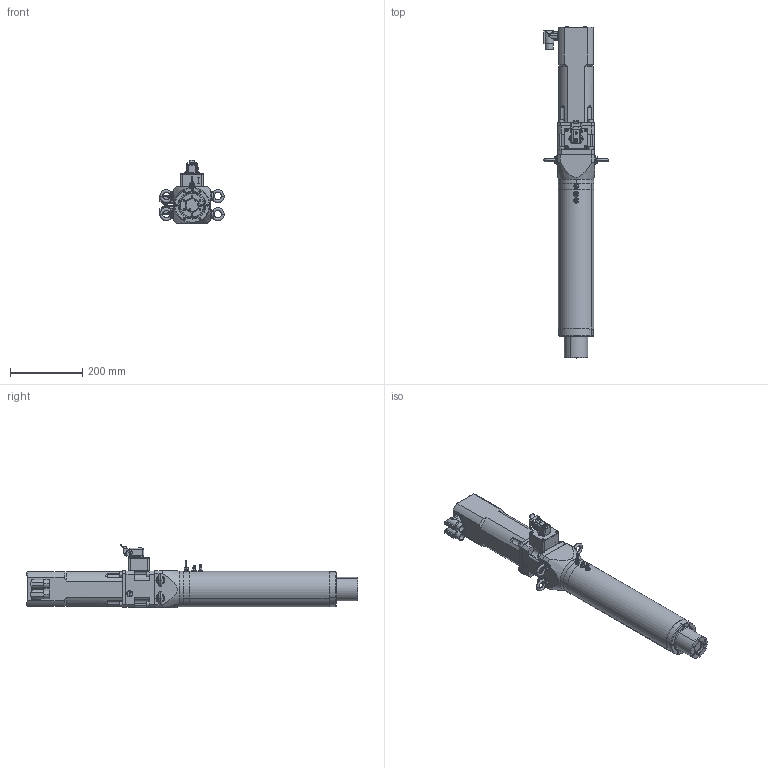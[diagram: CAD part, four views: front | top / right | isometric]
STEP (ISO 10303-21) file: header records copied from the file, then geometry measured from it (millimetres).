
FILE_DESCRIPTION (( 'STEP AP214' ), '1' );
FILE_NAME ('KM RLWIK010D-020-030SG0.STEP', '2023-04-06T07:23:30', ( '' ), ( '' ), 'SwSTEP 2.0', 'SolidWorks 2021', '' );
FILE_SCHEMA (( 'AUTOMOTIVE_DESIGN' ));
Length unit declared in the file: millimetre
Products named in the file (1): KM RLWIK010D-020-030SG0
Bounding box: 178.5 x 917 x 174.74 mm (x, y, z)
Volume: 6120195.2 mm3; surface area: 752871.1 mm2
Topology: 38 solids, 38 shells, 2347 faces, 5738 edges, 3529 vertices
Faces by surface type: plane 927, cylinder 794, cone 301, bspline 253, torus 70, sphere 2
Entity records: 122948 total; most frequent: CARTESIAN_POINT 43525, ORIENTED_EDGE 11140, DIRECTION 10673, EDGE_CURVE 5570, AXIS2_PLACEMENT_3D 4027, VERTEX_POINT 3529, EDGE_LOOP 2705, VECTOR 2619
